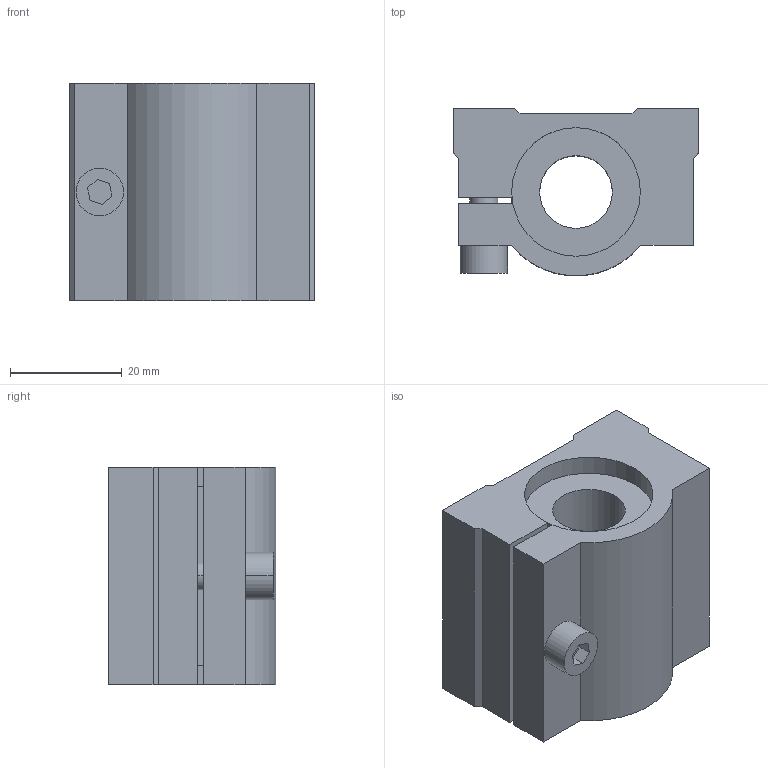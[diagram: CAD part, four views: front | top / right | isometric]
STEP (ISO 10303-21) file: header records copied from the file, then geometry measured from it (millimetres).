
FILE_DESCRIPTION((''),'2;1');
FILE_NAME('C:\Documents and Settings\ｿﾀﾀ蠑ｷ1\ｹﾙﾅﾁ ﾈｭｸ饅\ｺﾎﾇｰﾆﾄﾀﾏ\ﾁｦﾇｰ\SCJ__UU\SCJ13UU.stp','2005-06-22T17:43:23',('ｿﾀﾀ蠑ｷ1'),(''),'Autodesk Inventor 9','Autodesk Inventor 9','');
FILE_SCHEMA(('AUTOMOTIVE_DESIGN { 1 0 10303 214 1 1 1 1 }'));
Length unit declared in the file: millimetre
Products named in the file (1): SCJ__UU
Bounding box: 44 x 29.95 x 39 mm (x, y, z)
Volume: 35515.6 mm3; surface area: 10733.3 mm2
Topology: 1 solids, 1 shells, 56 faces, 142 edges, 88 vertices
Faces by surface type: plane 29, bspline 16, cylinder 11
Entity records: 1863 total; most frequent: CARTESIAN_POINT 551, ORIENTED_EDGE 268, DIRECTION 254, EDGE_CURVE 134, VECTOR 96, LINE 96, VERTEX_POINT 88, AXIS2_PLACEMENT_3D 79
